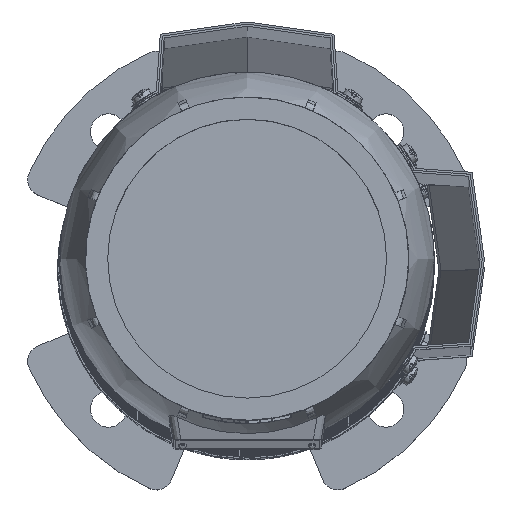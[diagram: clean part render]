
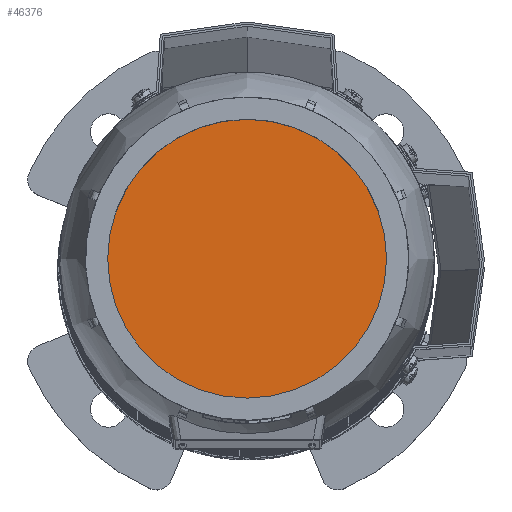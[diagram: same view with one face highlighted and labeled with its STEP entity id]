
A CAD part, top view. The second image highlights one B-rep face of the part: STEP entity #46376.
In plain terms, the highlighted planar face has unit normal (0, 0, 1) as drawn and (0, 1, 0) by its records, which use the part's own axes.
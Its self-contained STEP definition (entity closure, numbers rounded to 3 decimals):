
#9769=ORIENTED_EDGE('',*,*,#23715,.F.);
#23715=EDGE_CURVE('',#30688,#30688,#35395,.T.);
#30688=VERTEX_POINT('',#67037);
#35395=CIRCLE('',#48935,67.736);
#37517=EDGE_LOOP('',(#9769));
#40931=FACE_BOUND('',#37517,.T.);
#44363=PLANE('',#48934);
#46376=ADVANCED_FACE('',(#40931),#44363,.F.);
#48934=AXIS2_PLACEMENT_3D('',#67035,#53554,#53555);
#48935=AXIS2_PLACEMENT_3D('',#67036,#53556,#53557);
#53554=DIRECTION('',(0.,-1.,0.));
#53555=DIRECTION('',(0.,0.,-1.));
#53556=DIRECTION('',(0.,-1.,0.));
#53557=DIRECTION('',(0.,0.,-1.));
#67035=CARTESIAN_POINT('',(0.,154.,0.));
#67036=CARTESIAN_POINT('',(0.,154.,0.));
#67037=CARTESIAN_POINT('',(0.,154.,-67.736));
